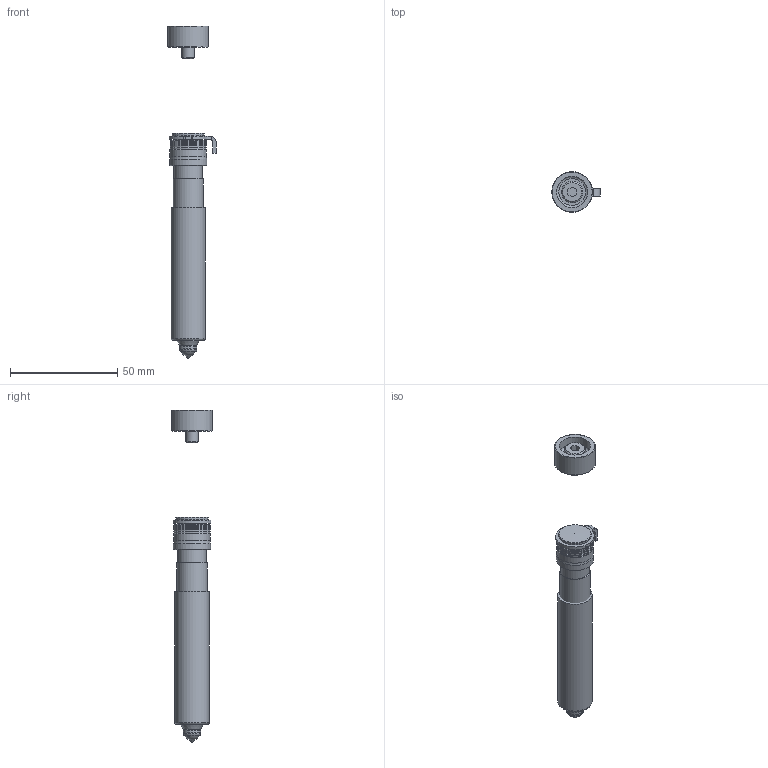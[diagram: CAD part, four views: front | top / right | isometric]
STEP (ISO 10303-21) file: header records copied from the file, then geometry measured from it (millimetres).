
FILE_DESCRIPTION(/* description */ (''),/* implementation_level */ '2;1');
FILE_NAME(/* name */ 'U350 HT-U.stp',/* time_stamp */ '2021-12-23T14:18:39+08:00',/* author */ (''),/* organization */ (''),/* preprocessor_version */ 'ST-DEVELOPER v16',/* originating_system */ 'SIEMENS PLM Software NX 11.0',/* authorisation */ '');
FILE_SCHEMA (('AUTOMOTIVE_DESIGN { 1 0 10303 214 3 1 1 1 }'));
Length unit declared in the file: millimetre
Products named in the file (12): 3D_EXPORT_3D_ASSY_11312808_1_id62_x_t; 3D_EXPORT_3D_ASSY_11312808_1_id57_x_t; 3D_EXPORT_3D_ASSY_11312808_1_id52_x_t; 3D_EXPORT_3D_ASSY_11312808_1_id47_x_t; 3D_EXPORT_3D_ASSY_11312808_1_id42_x_t; 3D_EXPORT_3D_ASSY_11312808_1_id37_x_t; 3D_EXPORT_3D_ASSY_11312808_1_id32_x_t; 3D_EXPORT_3D_ASSY_11312808_1_id27_x_t; 3D_EXPORT_3D_ASSY_11312808_1_id16_x_t; 3D_EXPORT_3D_ASSY_11312808_1_id11_x_t; 3D_EXPORT_3D_ASSY_11312808_1_id6_x_t; 3D_EXPORT_3D_ASSY_11312808_1_x_t
Assembly tree (15 placements, depth 2):
  3D_EXPORT_3D_ASSY_11312808_1_x_t
    3D_EXPORT_3D_ASSY_11312808_1_id6_x_t
    3D_EXPORT_3D_ASSY_11312808_1_id11_x_t
    3D_EXPORT_3D_ASSY_11312808_1_id16_x_t  x4
    3D_EXPORT_3D_ASSY_11312808_1_id27_x_t
    3D_EXPORT_3D_ASSY_11312808_1_id32_x_t
    3D_EXPORT_3D_ASSY_11312808_1_id37_x_t
    3D_EXPORT_3D_ASSY_11312808_1_id42_x_t
    3D_EXPORT_3D_ASSY_11312808_1_id47_x_t
    3D_EXPORT_3D_ASSY_11312808_1_id52_x_t
    3D_EXPORT_3D_ASSY_11312808_1_id57_x_t
    3D_EXPORT_3D_ASSY_11312808_1_id62_x_t  x2
Bounding box: 22.46 x 18.93 x 154.6 mm (x, y, z)
Volume: 39411.1 mm3; surface area: 17783.7 mm2
Topology: 15 solids, 15 shells, 366 faces, 920 edges, 587 vertices
Faces by surface type: cylinder 163, plane 117, torus 51, cone 34, sphere 1
Full cylindrical faces by diameter (mm): 0.7 x1, 1.194 x1, 5.795 x1, 6 x1, 6.89 x1, 7.2 x1, 7.283 x1, 7.87 x1, 7.995 x1, 8 x2, 9.4 x1, 9.95 x1, 9.97 x2, 10 x2, 11.06 x1, 13.3 x2, 14 x1, 14.05 x1, 14.5 x1, 15 x1, 16 x1, 16.9 x4, 17 x1, 17.27 x1, 19 x1
Entity records: 12503 total; most frequent: CARTESIAN_POINT 2182, DIRECTION 1599, ORIENTED_EDGE 1492, EDGE_CURVE 746, AXIS2_PLACEMENT_3D 647, VERTEX_POINT 512, EDGE_LOOP 451, PRESENTATION_STYLE_ASSIGNMENT 349
